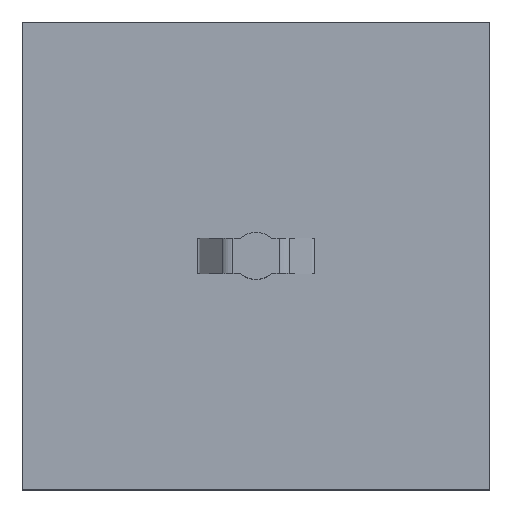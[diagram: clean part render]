
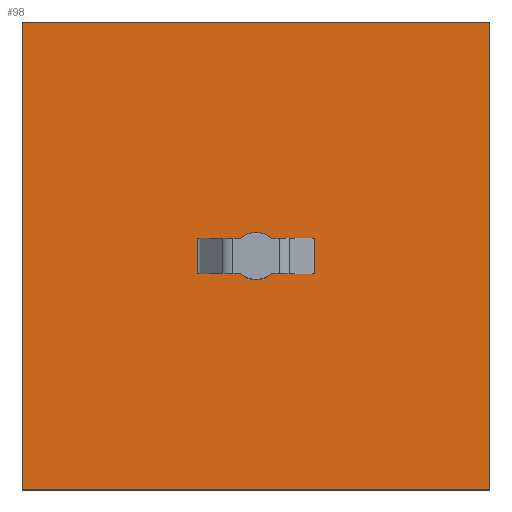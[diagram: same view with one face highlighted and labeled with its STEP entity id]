
A CAD part, top view. The second image highlights one B-rep face of the part: STEP entity #98.
In plain terms, the highlighted planar face has unit normal (0, 0, 1).
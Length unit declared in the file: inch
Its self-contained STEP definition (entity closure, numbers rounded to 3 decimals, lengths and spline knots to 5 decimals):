
#98=ADVANCED_FACE('',(#155,#156),#157,.T.);
#155=FACE_BOUND('',#221,.T.);
#156=FACE_OUTER_BOUND('',#222,.T.);
#157=PLANE('',#223);
#221=EDGE_LOOP('',(#443,#444,#445,#446,#447,#448,#449,#450,#451,#452,#453,#454));
#222=EDGE_LOOP('',(#455,#456,#457,#458));
#223=AXIS2_PLACEMENT_3D('',#459,#460,#461);
#443=ORIENTED_EDGE('',*,*,#584,.T.);
#444=ORIENTED_EDGE('',*,*,#597,.T.);
#445=ORIENTED_EDGE('',*,*,#598,.T.);
#446=ORIENTED_EDGE('',*,*,#599,.T.);
#447=ORIENTED_EDGE('',*,*,#552,.T.);
#448=ORIENTED_EDGE('',*,*,#548,.F.);
#449=ORIENTED_EDGE('',*,*,#570,.T.);
#450=ORIENTED_EDGE('',*,*,#595,.T.);
#451=ORIENTED_EDGE('',*,*,#600,.T.);
#452=ORIENTED_EDGE('',*,*,#601,.T.);
#453=ORIENTED_EDGE('',*,*,#559,.T.);
#454=ORIENTED_EDGE('',*,*,#541,.F.);
#455=ORIENTED_EDGE('',*,*,#602,.F.);
#456=ORIENTED_EDGE('',*,*,#603,.F.);
#457=ORIENTED_EDGE('',*,*,#604,.F.);
#458=ORIENTED_EDGE('',*,*,#605,.T.);
#459=CARTESIAN_POINT('',(3.70689,3.29268,-0.118));
#460=DIRECTION('',(0.,0.,1.0));
#461=DIRECTION('',(0.,1.0,0.));
#541=EDGE_CURVE('',#651,#646,#653,.T.);
#548=EDGE_CURVE('',#664,#659,#666,.T.);
#552=EDGE_CURVE('',#672,#659,#673,.T.);
#559=EDGE_CURVE('',#685,#646,#686,.T.);
#570=EDGE_CURVE('',#664,#698,#704,.T.);
#584=EDGE_CURVE('',#651,#714,#725,.T.);
#595=EDGE_CURVE('',#698,#738,#740,.T.);
#597=EDGE_CURVE('',#714,#741,#743,.T.);
#598=EDGE_CURVE('',#741,#744,#745,.T.);
#599=EDGE_CURVE('',#744,#672,#746,.T.);
#600=EDGE_CURVE('',#738,#747,#748,.T.);
#601=EDGE_CURVE('',#747,#685,#749,.T.);
#602=EDGE_CURVE('',#750,#751,#752,.T.);
#603=EDGE_CURVE('',#753,#750,#754,.T.);
#604=EDGE_CURVE('',#755,#753,#756,.T.);
#605=EDGE_CURVE('',#755,#751,#757,.T.);
#646=VERTEX_POINT('',#810);
#651=VERTEX_POINT('',#816);
#653=LINE('',#818,#819);
#659=VERTEX_POINT('',#828);
#664=VERTEX_POINT('',#834);
#666=LINE('',#836,#837);
#672=VERTEX_POINT('',#846);
#673=LINE('',#847,#848);
#685=VERTEX_POINT('',#864);
#686=LINE('',#865,#866);
#698=VERTEX_POINT('',#882);
#704=LINE('',#892,#893);
#714=VERTEX_POINT('',#906);
#725=LINE('',#922,#923);
#738=VERTEX_POINT('',#942);
#740=LINE('',#945,#946);
#741=VERTEX_POINT('',#947);
#743=LINE('',#950,#951);
#744=VERTEX_POINT('',#952);
#745=CIRCLE('',#953,0.1005);
#746=LINE('',#954,#955);
#747=VERTEX_POINT('',#956);
#748=CIRCLE('',#957,0.1005);
#749=LINE('',#958,#959);
#750=VERTEX_POINT('',#960);
#751=VERTEX_POINT('',#961);
#752=LINE('',#962,#963);
#753=VERTEX_POINT('',#964);
#754=LINE('',#965,#966);
#755=VERTEX_POINT('',#967);
#756=LINE('',#968,#969);
#757=LINE('',#970,#971);
#810=CARTESIAN_POINT('',(4.2491,3.07479,-0.118));
#816=CARTESIAN_POINT('',(4.2491,2.92479,-0.118));
#818=CARTESIAN_POINT('',(4.2491,3.15687,-0.118));
#819=VECTOR('',#1021,1.0);
#828=CARTESIAN_POINT('',(3.7509,2.92479,-0.118));
#834=CARTESIAN_POINT('',(3.7509,3.07479,-0.118));
#836=CARTESIAN_POINT('',(3.7509,3.15687,-0.118));
#837=VECTOR('',#1032,1.0);
#846=CARTESIAN_POINT('',(3.825,2.92479,-0.118));
#847=CARTESIAN_POINT('',(3.79596,2.92479,-0.118));
#848=VECTOR('',#1036,1.0);
#864=CARTESIAN_POINT('',(4.175,3.07479,-0.118));
#865=CARTESIAN_POINT('',(3.89209,3.07479,-0.118));
#866=VECTOR('',#1047,1.0);
#882=CARTESIAN_POINT('',(3.825,3.07479,-0.118));
#892=CARTESIAN_POINT('',(3.77434,3.07479,-0.118));
#893=VECTOR('',#1062,1.0);
#906=CARTESIAN_POINT('',(4.175,2.92479,-0.118));
#922=CARTESIAN_POINT('',(3.89209,2.92479,-0.118));
#923=VECTOR('',#1086,1.0);
#942=CARTESIAN_POINT('',(3.93289,3.07479,-0.118));
#945=CARTESIAN_POINT('',(3.77434,3.07479,-0.118));
#946=VECTOR('',#1103,1.0);
#947=CARTESIAN_POINT('',(4.06668,2.92479,-0.118));
#950=CARTESIAN_POINT('',(3.93234,2.92479,-0.118));
#951=VECTOR('',#1105,1.0);
#952=CARTESIAN_POINT('',(3.93289,2.92479,-0.118));
#953=AXIS2_PLACEMENT_3D('',#1106,#1107,#1108);
#954=CARTESIAN_POINT('',(3.77434,2.92479,-0.118));
#955=VECTOR('',#1109,1.0);
#956=CARTESIAN_POINT('',(4.06668,3.07479,-0.118));
#957=AXIS2_PLACEMENT_3D('',#1110,#1111,#1112);
#958=CARTESIAN_POINT('',(3.93234,3.07479,-0.118));
#959=VECTOR('',#1113,1.0);
#960=CARTESIAN_POINT('',(2.99979,1.99979,-0.118));
#961=CARTESIAN_POINT('',(2.99979,3.99979,-0.118));
#962=CARTESIAN_POINT('',(2.99979,1.99979,-0.118));
#963=VECTOR('',#1114,1.0);
#964=CARTESIAN_POINT('',(4.99979,1.99979,-0.118));
#965=CARTESIAN_POINT('',(4.99979,1.99979,-0.118));
#966=VECTOR('',#1115,1.0);
#967=CARTESIAN_POINT('',(4.99979,3.99979,-0.118));
#968=CARTESIAN_POINT('',(4.99979,3.99979,-0.118));
#969=VECTOR('',#1116,1.0);
#970=CARTESIAN_POINT('',(4.99979,3.99979,-0.118));
#971=VECTOR('',#1117,1.0);
#1021=DIRECTION('',(0.,1.0,0.));
#1032=DIRECTION('',(0.,-1.0,0.));
#1036=DIRECTION('',(-1.0,0.,0.));
#1047=DIRECTION('',(1.0,0.,0.));
#1062=DIRECTION('',(1.0,0.,0.));
#1086=DIRECTION('',(-1.0,0.,0.));
#1103=DIRECTION('',(1.0,0.,0.));
#1105=DIRECTION('',(-1.0,0.,0.));
#1106=CARTESIAN_POINT('',(3.99979,2.99979,-0.118));
#1107=DIRECTION('',(0.,0.,-1.0));
#1108=DIRECTION('',(-0.666,-0.746,0.));
#1109=DIRECTION('',(-1.0,0.,0.));
#1110=CARTESIAN_POINT('',(3.99979,2.99979,-0.118));
#1111=DIRECTION('',(0.,0.,-1.0));
#1112=DIRECTION('',(0.666,0.746,0.));
#1113=DIRECTION('',(1.0,0.,0.));
#1114=DIRECTION('',(0.,1.0,0.0));
#1115=DIRECTION('',(-1.0,0.,0.0));
#1116=DIRECTION('',(0.,-1.0,0.0));
#1117=DIRECTION('',(-1.0,0.,0.0));
